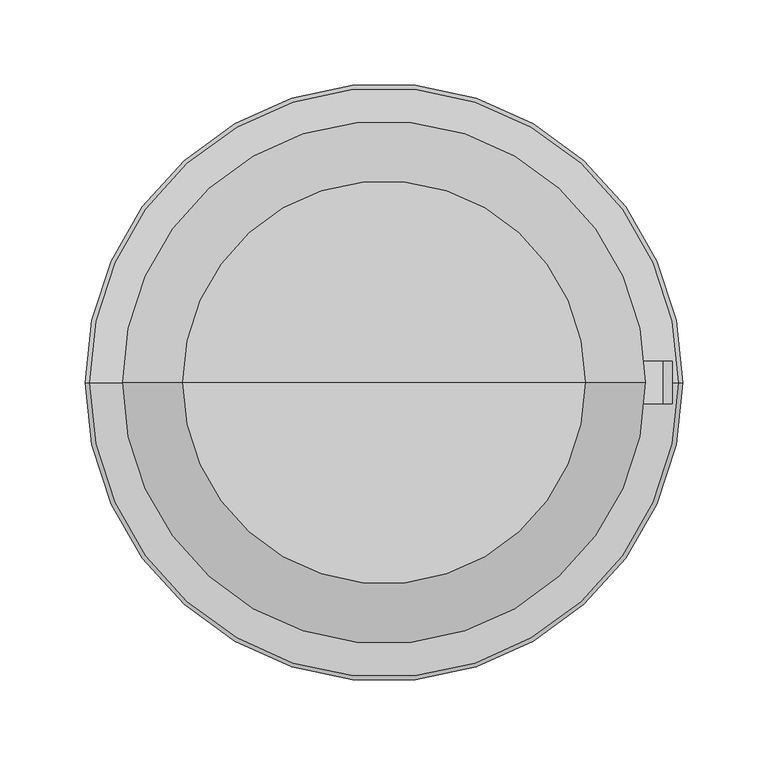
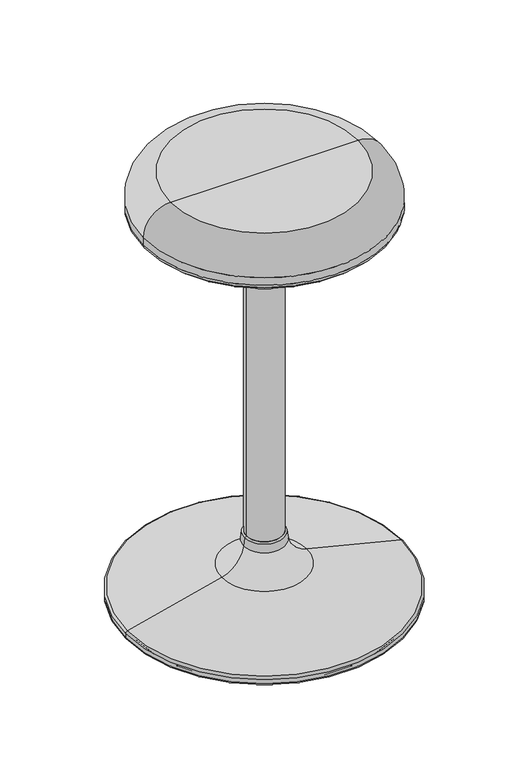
"""IFC4 building model written with IfcOpenShell, lengths in millimetres: furniture geometry, Qyos Stool : Qyos Stool."""

from ifc_helpers import new_model, si_unit, point, frame, frame_2d, origin, origin_2d, place, context, project, spatial, polyline, circle_curve, ellipse_curve, trimmed, segment, composite_curve, outline, extrude, source, transform, mapped, element, save
from ifc_brep_helpers import plane_surface, cylinder_surface, revolved_surface, advanced_brep


def furniture_9c70d94f(model_context):
    return source(origin(), model_context, "Body", "SolidModel", [
        extrude(outline(composite_curve([segment(trimmed(circle_curve(frame_2d((295.8647851, 175.4206629)), 218.1990322), [point((500.3955789, 99.40769))], [point((498.4558227, 94.3793824))], False, "CARTESIAN"), True, "CONTINUOUS"), segment(trimmed(circle_curve(frame_2d((338.2474197, 26.9948353)), 173.8027894), [point((498.4558227, 94.3793824))], [point((486.9308, 116.9985129))], True, "CARTESIAN"), True, "CONTINUOUS"), segment(trimmed(circle_curve(frame_2d((552.2085277, 156.5135922)), 76.3061152), [point((486.9308, 116.9985129))], [point((475.9188176, 158.0957908))], False, "CARTESIAN"), True, "CONTINUOUS"), segment(trimmed(circle_curve(frame_2d((486.9678807, 157.8666405)), 11.0514391), [point((475.9188176, 158.0957908))], [point((496.4220749, 163.5896221))], False, "CARTESIAN"), True, "CONTINUOUS"), segment(trimmed(circle_curve(frame_2d((432.5136352, 124.9034247)), 74.705492), [point((496.4220749, 163.5896221))], [point((507.1035077, 120.7487348))], False, "CARTESIAN"), True, "CONTINUOUS"), segment(trimmed(circle_curve(frame_2d((295.8647851, 175.4206629)), 218.1990322), [point((507.1035077, 120.7487348))], [point((503.3607603, 107.9207523))], False, "CARTESIAN"), True, "CONTINUOUS"), segment(trimmed(circle_curve(frame_2d((615.517591, 114.7100211)), 112.3621326), [point((503.3607603, 107.9207523))], [point((503.3293579, 120.9589567))], False, "CARTESIAN"), True, "CONTINUOUS"), segment(trimmed(circle_curve(frame_2d((432.5136352, 124.9034247)), 70.925492), [point((503.3293579, 120.9589567))], [point((493.1883916, 161.6321512))], True, "CARTESIAN"), True, "CONTINUOUS"), segment(trimmed(circle_curve(frame_2d((486.9678807, 157.8666405)), 7.2714391), [point((493.1883916, 161.6321512))], [point((479.698005, 158.017413))], True, "CARTESIAN"), True, "CONTINUOUS"), segment(trimmed(circle_curve(frame_2d((552.2085277, 156.5135922)), 72.5261152), [point((479.698005, 158.017413))], [point((490.1644833, 118.9559838))], True, "CARTESIAN"), True, "CONTINUOUS"), segment(trimmed(circle_curve(frame_2d((338.2474197, 26.9948353)), 177.5827894), [point((490.1644833, 118.9559838))], [point((500.3955789, 99.40769))], False, "CARTESIAN"), True, "CONTINUOUS")], self_intersect=False)), frame((0.0, -12.5, 0.0), z_axis=(0.0, 1.0, 0.0), x_axis=(0.0, 0.0, 1.0)), (0.0, 0.0, 1.0), 25.0),
        advanced_brep(
        [(0.0, 0.0, 89.0), (22.5, 0.0, 89.0), (-22.5, 0.0, 89.0), (-162.1516528, 0.0, 0.0), (162.1516528, 0.0, 0.0), (0.0, 0.0, 0.0), (-163.0916394, 0.0, 0.9399866), (163.0916394, 0.0, 0.9399866), (-163.0916394, 0.0, 4.0448087), (163.0916394, 0.0, 4.0448087), (-172.3497774, 0.0, 4.0448087), (172.3497774, 0.0, 4.0448087), (-174.9989486, 0.0, 7.0923316), (174.9989486, 0.0, 7.0923316), (-174.9989486, 0.0, 12.4005958), (174.9989486, 0.0, 12.4005958), (-172.8108639, 0.0, 15.3042823), (172.8108639, 0.0, 15.3042823), (-54.0380143, 0.0, 44.9176796), (54.0380143, 0.0, 44.9176796), (-26.3071066, 0.0, 76.8184398), (26.3071066, 0.0, 76.8184398), (-24.8237777, 0.0, 87.3728734), (24.8237777, 0.0, 87.3728734)],
        [
            (0, 1),
            (1, 2, circle_curve(frame((0.0, 0.0, 89.0), z_axis=(0.0, 0.0, 1.0), x_axis=(1.0, 0.0, 0.0)), 22.5)),
            (2, 0),
            (2, 1, circle_curve(frame((0.0, 0.0, 89.0), z_axis=(0.0, 0.0, 1.0), x_axis=(1.0, 0.0, 0.0)), 22.5)),
            (3, 4, circle_curve(frame((0.0, 0.0, 0.0), z_axis=(0.0, 0.0, -1.0), x_axis=(1.0, 0.0, 0.0)), 162.1516528)),
            (4, 5),
            (5, 3),
            (4, 3, circle_curve(frame((0.0, 0.0, 0.0), z_axis=(0.0, 0.0, -1.0), x_axis=(1.0, 0.0, 0.0)), 162.1516528)),
            (6, 7, circle_curve(frame((0.0, 0.0, 0.9399866), z_axis=(0.0, 0.0, -1.0), x_axis=(1.0, 0.0, 0.0)), 163.0916394)),
            (7, 4, circle_curve(frame((162.1516528, 0.0, 0.9399866), z_axis=(0.0, 1.0, 0.0), x_axis=(1.0, 0.0, 0.0)), 0.9399866)),
            (3, 6, circle_curve(frame((-162.1516528, 0.0, 0.9399866), z_axis=(0.0, 1.0, 0.0), x_axis=(-1.0, 0.0, 0.0)), 0.9399866)),
            (7, 6, circle_curve(frame((0.0, 0.0, 0.9399866), z_axis=(0.0, 0.0, -1.0), x_axis=(1.0, 0.0, 0.0)), 163.0916394)),
            (8, 9, circle_curve(frame((0.0, 0.0, 4.0448087), z_axis=(0.0, 0.0, -1.0), x_axis=(1.0, 0.0, 0.0)), 163.0916394)),
            (9, 7),
            (6, 8),
            (9, 8, circle_curve(frame((0.0, 0.0, 4.0448087), z_axis=(0.0, 0.0, -1.0), x_axis=(1.0, 0.0, 0.0)), 163.0916394)),
            (10, 11, circle_curve(frame((0.0, 0.0, 4.0448087), z_axis=(0.0, 0.0, -1.0), x_axis=(1.0, 0.0, 0.0)), 172.3497774)),
            (11, 9),
            (8, 10),
            (11, 10, circle_curve(frame((0.0, 0.0, 4.0448087), z_axis=(0.0, 0.0, -1.0), x_axis=(1.0, 0.0, 0.0)), 172.3497774)),
            (12, 13, circle_curve(frame((0.0, 0.0, 7.0923316), z_axis=(0.0, 0.0, -1.0), x_axis=(1.0, 0.0, 0.0)), 174.9989486)),
            (13, 11, circle_curve(frame((171.921476, 0.0, 7.0923316), z_axis=(0.0, 1.0, 0.0), x_axis=(1.0, 0.0, 0.0)), 3.0774726)),
            (10, 12, circle_curve(frame((-171.921476, 0.0, 7.0923316), z_axis=(0.0, 1.0, 0.0), x_axis=(-1.0, 0.0, 0.0)), 3.0774726)),
            (13, 12, circle_curve(frame((0.0, 0.0, 7.0923316), z_axis=(0.0, 0.0, -1.0), x_axis=(1.0, 0.0, 0.0)), 174.9989486)),
            (14, 15, circle_curve(frame((0.0, 0.0, 12.4005958), z_axis=(0.0, 0.0, -1.0), x_axis=(1.0, 0.0, 0.0)), 174.9989486)),
            (15, 13),
            (12, 14),
            (15, 14, circle_curve(frame((0.0, 0.0, 12.4005958), z_axis=(0.0, 0.0, -1.0), x_axis=(1.0, 0.0, 0.0)), 174.9989486)),
            (16, 17, circle_curve(frame((0.0, 0.0, 15.3042823), z_axis=(0.0, 0.0, -1.0), x_axis=(1.0, 0.0, 0.0)), 172.8108639)),
            (17, 15, circle_curve(frame((172.1120292, 0.0, 12.5014092), z_axis=(0.0, 1.0, 0.0), x_axis=(1.0, 0.0, 0.0)), 2.8886791)),
            (14, 16, circle_curve(frame((-172.1120292, 0.0, 12.5014092), z_axis=(0.0, 1.0, 0.0), x_axis=(-1.0, 0.0, 0.0)), 2.8886791)),
            (17, 16, circle_curve(frame((0.0, 0.0, 15.3042823), z_axis=(0.0, 0.0, -1.0), x_axis=(1.0, 0.0, 0.0)), 172.8108639)),
            (18, 19, circle_curve(frame((0.0, 0.0, 44.9176796), z_axis=(0.0, 0.0, -1.0), x_axis=(1.0, 0.0, 0.0)), 54.0380143)),
            (19, 17),
            (16, 18),
            (19, 18, circle_curve(frame((0.0, 0.0, 44.9176796), z_axis=(0.0, 0.0, -1.0), x_axis=(1.0, 0.0, 0.0)), 54.0380143)),
            (20, 21, circle_curve(frame((0.0, 0.0, 76.8184398), z_axis=(0.0, 0.0, -1.0), x_axis=(1.0, 0.0, 0.0)), 26.3071066)),
            (21, 19, circle_curve(frame((64.7339919, 0.0, 82.2189863), z_axis=(0.0, -1.0, 0.0), x_axis=(1.0, 0.0, 0.0)), 38.8045283)),
            (18, 20, circle_curve(frame((-64.7339919, 0.0, 82.2189863), z_axis=(0.0, -1.0, 0.0), x_axis=(-1.0, 0.0, 0.0)), 38.8045283)),
            (21, 20, circle_curve(frame((0.0, 0.0, 76.8184398), z_axis=(0.0, 0.0, -1.0), x_axis=(1.0, 0.0, 0.0)), 26.3071066)),
            (22, 23, circle_curve(frame((0.0, 0.0, 87.3728734), z_axis=(0.0, 0.0, -1.0), x_axis=(1.0, 0.0, 0.0)), 24.8237777)),
            (23, 21),
            (20, 22),
            (23, 22, circle_curve(frame((0.0, 0.0, 87.3728734), z_axis=(0.0, 0.0, -1.0), x_axis=(1.0, 0.0, 0.0)), 24.8237777)),
            (1, 23, circle_curve(frame((22.5, 0.0, 86.5270875), z_axis=(0.0, 1.0, 0.0), x_axis=(1.0, 0.0, 0.0)), 2.4729125)),
            (22, 2, circle_curve(frame((-22.5, 0.0, 86.5270875), z_axis=(0.0, 1.0, 0.0), x_axis=(-1.0, 0.0, 0.0)), 2.4729125)),
        ],
        [
            plane_surface(frame((0.0, 0.0, 89.0), z_axis=(0.0, 0.0, 1.0), x_axis=(1.0, 0.0, 0.0))),
            plane_surface(frame((0.0, 0.0, 0.0), z_axis=(0.0, 0.0, -1.0), x_axis=(1.0, 0.0, 0.0))),
            revolved_surface(trimmed(ellipse_curve(frame((162.1516528, 0.0, 0.9399866), z_axis=(0.0, -1.0, 0.0), x_axis=(1.0, 0.0, 0.0)), 0.9399866, 0.9399866), [point((162.1516528, 0.0, 0.0))], [point((163.0916394, 0.0, 0.9399866))], True, "CARTESIAN"), (0.0, 0.0, 1997.4144888), (0.0, 0.0, 1.0)),
            cylinder_surface(frame((0.0, 0.0, 1997.4144888), z_axis=(0.0, 0.0, 1.0), x_axis=(1.0, 0.0, 0.0)), 163.0916394),
            plane_surface(frame((0.0, 0.0, 4.0448087), z_axis=(0.0, 0.0, -1.0), x_axis=(1.0, 0.0, 0.0))),
            revolved_surface(trimmed(ellipse_curve(frame((171.921476, 0.0, 7.0923316), z_axis=(0.0, -1.0, 0.0), x_axis=(1.0, 0.0, 0.0)), 3.0774726, 3.0774726), [point((172.3497774, 0.0, 4.0448087))], [point((174.9989486, 0.0, 7.0923316))], True, "CARTESIAN"), (0.0, 0.0, 1997.4144888), (0.0, 0.0, 1.0)),
            cylinder_surface(frame((0.0, 0.0, 1997.4144888), z_axis=(0.0, 0.0, 1.0), x_axis=(1.0, 0.0, 0.0)), 174.9989486),
            revolved_surface(trimmed(ellipse_curve(frame((172.1120292, 0.0, 12.5014092), z_axis=(0.0, -1.0, 0.0), x_axis=(1.0, 0.0, 0.0)), 2.8886791, 2.8886791), [point((174.9989486, 0.0, 12.4005958))], [point((172.8108639, 0.0, 15.3042823))], True, "CARTESIAN"), (0.0, 0.0, 1997.4144888), (0.0, 0.0, 1.0)),
            revolved_surface(polyline([(172.8108639, 0.0, 15.3042823), (54.0380143, 0.0, 44.9176796)]), (0.0, 0.0, 1997.4144888), (0.0, 0.0, 1.0)),
            revolved_surface(trimmed(ellipse_curve(frame((64.7339919, 0.0, 82.2189863), z_axis=(0.0, 1.0, 0.0), x_axis=(1.0, 0.0, 0.0)), 38.8045283, 38.8045283), [point((54.0380143, 0.0, 44.9176796))], [point((26.3071066, 0.0, 76.8184398))], True, "CARTESIAN"), (0.0, 0.0, 1997.4144888), (0.0, 0.0, 1.0)),
            revolved_surface(polyline([(26.3071066, 0.0, 76.8184398), (24.8237777, 0.0, 87.3728734)]), (0.0, 0.0, 1997.4144888), (0.0, 0.0, 1.0)),
            revolved_surface(trimmed(ellipse_curve(frame((22.5, 0.0, 86.5270875), z_axis=(0.0, -1.0, 0.0), x_axis=(1.0, 0.0, 0.0)), 2.4729125, 2.4729125), [point((24.8237777, 0.0, 87.3728734))], [point((22.5, 0.0, 89.0))], True, "CARTESIAN"), (0.0, 0.0, 1997.4144888), (0.0, 0.0, 1.0)),
        ],
        [
            (0, [[1, 2, 3]]),
            (0, [[-3, 4, -1]]),
            (1, [[5, 6, 7]]),
            (1, [[8, -7, -6]]),
            (2, [[9, 10, -5, 11]]),
            (2, [[12, -11, -8, -10]]),
            (3, [[13, 14, -9, 15]]),
            (3, [[16, -15, -12, -14]]),
            (4, [[17, 18, -13, 19]]),
            (4, [[20, -19, -16, -18]]),
            (5, [[21, 22, -17, 23]]),
            (5, [[24, -23, -20, -22]]),
            (6, [[25, 26, -21, 27]]),
            (6, [[28, -27, -24, -26]]),
            (7, [[29, 30, -25, 31]]),
            (7, [[32, -31, -28, -30]]),
            (8, [[33, 34, -29, 35]]),
            (8, [[36, -35, -32, -34]]),
            (9, [[37, 38, -33, 39]]),
            (9, [[40, -39, -36, -38]]),
            (10, [[41, 42, -37, 43]]),
            (10, [[44, -43, -40, -42]]),
            (11, [[-2, 45, -41, 46]]),
            (11, [[-4, -46, -44, -45]]),
        ],
    ),
        advanced_brep(
        [(0.0, 0.0, 567.0), (117.9794661, 0.0, 567.0), (-117.9794661, 0.0, 567.0), (-22.5, 0.0, 440.0), (22.5, 0.0, 440.0), (0.0, 0.0, 440.0), (-48.0924064, 0.0, 473.0605321), (48.0924064, 0.0, 473.0605321), (-143.9224365, 0.0, 511.7783775), (143.9224365, 0.0, 511.7783775), (-147.0318201, 0.0, 514.4813234), (147.0318201, 0.0, 514.4813234), (-145.951661, 0.0, 515.9680348), (145.951661, 0.0, 515.9680348), (-153.0528371, 0.0, 521.926629), (153.0528371, 0.0, 521.926629), (-153.0528371, 0.0, 531.926629), (153.0528371, 0.0, 531.926629)],
        [
            (0, 1),
            (1, 2, circle_curve(frame((0.0, 0.0, 567.0), z_axis=(0.0, 0.0, 1.0), x_axis=(1.0, 0.0, 0.0)), 117.9794661)),
            (2, 0),
            (2, 1, circle_curve(frame((0.0, 0.0, 567.0), z_axis=(0.0, 0.0, 1.0), x_axis=(1.0, 0.0, 0.0)), 117.9794661)),
            (3, 4, circle_curve(frame((0.0, 0.0, 440.0), z_axis=(0.0, 0.0, -1.0), x_axis=(1.0, 0.0, 0.0)), 22.5)),
            (4, 5),
            (5, 3),
            (4, 3, circle_curve(frame((0.0, 0.0, 440.0), z_axis=(0.0, 0.0, -1.0), x_axis=(1.0, 0.0, 0.0)), 22.5)),
            (6, 7, circle_curve(frame((0.0, 0.0, 473.0605321), z_axis=(0.0, 0.0, -1.0), x_axis=(1.0, 0.0, 0.0)), 48.0924064)),
            (7, 4, circle_curve(frame((90.9009785, 0.0, 413.4861916), z_axis=(0.0, -1.0, 0.0), x_axis=(1.0, 0.0, 0.0)), 73.3599066)),
            (3, 6, circle_curve(frame((-90.9009785, 0.0, 413.4861916), z_axis=(0.0, -1.0, 0.0), x_axis=(-1.0, 0.0, 0.0)), 73.3599066)),
            (7, 6, circle_curve(frame((0.0, 0.0, 473.0605321), z_axis=(0.0, 0.0, -1.0), x_axis=(1.0, 0.0, 0.0)), 48.0924064)),
            (8, 9, circle_curve(frame((0.0, 0.0, 511.7783775), z_axis=(0.0, 0.0, -1.0), x_axis=(1.0, 0.0, 0.0)), 143.9224365)),
            (9, 7, circle_curve(frame((175.4206629, 0.0, 295.8647851), z_axis=(0.0, -1.0, 0.0), x_axis=(1.0, 0.0, 0.0)), 218.1990322)),
            (6, 8, circle_curve(frame((-175.4206629, 0.0, 295.8647851), z_axis=(0.0, -1.0, 0.0), x_axis=(-1.0, 0.0, 0.0)), 218.1990322)),
            (9, 8, circle_curve(frame((0.0, 0.0, 511.7783775), z_axis=(0.0, 0.0, -1.0), x_axis=(1.0, 0.0, 0.0)), 143.9224365)),
            (10, 11, circle_curve(frame((0.0, 0.0, 514.4813234), z_axis=(0.0, 0.0, -1.0), x_axis=(1.0, 0.0, 0.0)), 147.0318201)),
            (11, 9, circle_curve(frame((143.3719962, 0.0, 515.5515279), z_axis=(0.0, 1.0, 0.0), x_axis=(1.0, 0.0, 0.0)), 3.813089)),
            (8, 10, circle_curve(frame((-143.3719962, 0.0, 515.5515279), z_axis=(0.0, 1.0, 0.0), x_axis=(-1.0, 0.0, 0.0)), 3.813089)),
            (11, 10, circle_curve(frame((0.0, 0.0, 514.4813234), z_axis=(0.0, 0.0, -1.0), x_axis=(1.0, 0.0, 0.0)), 147.0318201)),
            (12, 13, circle_curve(frame((0.0, 0.0, 515.9680348), z_axis=(0.0, 0.0, -1.0), x_axis=(1.0, 0.0, 0.0)), 145.951661)),
            (13, 11, circle_curve(frame((145.9172091, 0.0, 514.8072576), z_axis=(0.0, 1.0, 0.0), x_axis=(1.0, 0.0, 0.0)), 1.1612884)),
            (10, 12, circle_curve(frame((-145.9172091, 0.0, 514.8072576), z_axis=(0.0, 1.0, 0.0), x_axis=(-1.0, 0.0, 0.0)), 1.1612884)),
            (13, 12, circle_curve(frame((0.0, 0.0, 515.9680348), z_axis=(0.0, 0.0, -1.0), x_axis=(1.0, 0.0, 0.0)), 145.951661)),
            (14, 15, circle_curve(frame((0.0, 0.0, 521.926629), z_axis=(0.0, 0.0, -1.0), x_axis=(1.0, 0.0, 0.0)), 153.0528371)),
            (15, 13, circle_curve(frame((146.7448744, 0.0, 522.233443), z_axis=(0.0, 1.0, 0.0), x_axis=(1.0, 0.0, 0.0)), 6.3154198)),
            (12, 14, circle_curve(frame((-146.7448744, 0.0, 522.233443), z_axis=(0.0, 1.0, 0.0), x_axis=(-1.0, 0.0, 0.0)), 6.3154198)),
            (15, 14, circle_curve(frame((0.0, 0.0, 521.926629), z_axis=(0.0, 0.0, -1.0), x_axis=(1.0, 0.0, 0.0)), 153.0528371)),
            (16, 17, circle_curve(frame((0.0, 0.0, 531.926629), z_axis=(0.0, 0.0, -1.0), x_axis=(1.0, 0.0, 0.0)), 153.0528371)),
            (17, 15),
            (14, 16),
            (17, 16, circle_curve(frame((0.0, 0.0, 531.926629), z_axis=(0.0, 0.0, -1.0), x_axis=(1.0, 0.0, 0.0)), 153.0528371)),
            (1, 17, circle_curve(frame((117.9794661, 0.0, 531.926629), z_axis=(0.0, 1.0, 0.0), x_axis=(1.0, 0.0, 0.0)), 35.073371)),
            (16, 2, circle_curve(frame((-117.9794661, 0.0, 531.926629), z_axis=(0.0, 1.0, 0.0), x_axis=(-1.0, 0.0, 0.0)), 35.073371)),
        ],
        [
            plane_surface(frame((0.0, 0.0, 567.0), z_axis=(0.0, 0.0, 1.0), x_axis=(1.0, 0.0, 0.0))),
            plane_surface(frame((0.0, 0.0, 440.0), z_axis=(0.0, 0.0, -1.0), x_axis=(1.0, 0.0, 0.0))),
            revolved_surface(trimmed(ellipse_curve(frame((90.9009785, 0.0, 413.4861916), z_axis=(0.0, 1.0, 0.0), x_axis=(1.0, 0.0, 0.0)), 73.3599066, 73.3599066), [point((22.5, 0.0, 440.0))], [point((48.0924064, 0.0, 473.0605321))], True, "CARTESIAN"), (0.0, 0.0, 1997.4144888), (0.0, 0.0, 1.0)),
            revolved_surface(trimmed(ellipse_curve(frame((175.4206629, 0.0, 295.8647851), z_axis=(0.0, 1.0, 0.0), x_axis=(1.0, 0.0, 0.0)), 218.1990322, 218.1990322), [point((48.0924064, 0.0, 473.0605321))], [point((143.9224365, 0.0, 511.7783775))], True, "CARTESIAN"), (0.0, 0.0, 1997.4144888), (0.0, 0.0, 1.0)),
            revolved_surface(trimmed(ellipse_curve(frame((143.3719962, 0.0, 515.5515279), z_axis=(0.0, -1.0, 0.0), x_axis=(1.0, 0.0, 0.0)), 3.813089, 3.813089), [point((143.9224365, 0.0, 511.7783775))], [point((147.0318201, 0.0, 514.4813234))], True, "CARTESIAN"), (0.0, 0.0, 1997.4144888), (0.0, 0.0, 1.0)),
            revolved_surface(trimmed(ellipse_curve(frame((145.9172091, 0.0, 514.8072576), z_axis=(0.0, -1.0, 0.0), x_axis=(1.0, 0.0, 0.0)), 1.1612884, 1.1612884), [point((147.0318201, 0.0, 514.4813234))], [point((145.951661, 0.0, 515.9680348))], True, "CARTESIAN"), (0.0, 0.0, 1997.4144888), (0.0, 0.0, 1.0)),
            revolved_surface(trimmed(ellipse_curve(frame((146.7448744, 0.0, 522.233443), z_axis=(0.0, -1.0, 0.0), x_axis=(1.0, 0.0, 0.0)), 6.3154198, 6.3154198), [point((145.951661, 0.0, 515.9680348))], [point((153.0528371, 0.0, 521.926629))], True, "CARTESIAN"), (0.0, 0.0, 1997.4144888), (0.0, 0.0, 1.0)),
            cylinder_surface(frame((0.0, 0.0, 1997.4144888), z_axis=(0.0, 0.0, 1.0), x_axis=(1.0, 0.0, 0.0)), 153.0528371),
            revolved_surface(trimmed(ellipse_curve(frame((117.9794661, 0.0, 531.926629), z_axis=(0.0, -1.0, 0.0), x_axis=(1.0, 0.0, 0.0)), 35.073371, 35.073371), [point((153.0528371, 0.0, 531.926629))], [point((117.9794661, 0.0, 567.0))], True, "CARTESIAN"), (0.0, 0.0, 1997.4144888), (0.0, 0.0, 1.0)),
        ],
        [
            (0, [[1, 2, 3]]),
            (0, [[-3, 4, -1]]),
            (1, [[5, 6, 7]]),
            (1, [[8, -7, -6]]),
            (2, [[9, 10, -5, 11]]),
            (2, [[12, -11, -8, -10]]),
            (3, [[13, 14, -9, 15]]),
            (3, [[16, -15, -12, -14]]),
            (4, [[17, 18, -13, 19]]),
            (4, [[20, -19, -16, -18]]),
            (5, [[21, 22, -17, 23]]),
            (5, [[24, -23, -20, -22]]),
            (6, [[25, 26, -21, 27]]),
            (6, [[28, -27, -24, -26]]),
            (7, [[29, 30, -25, 31]]),
            (7, [[32, -31, -28, -30]]),
            (8, [[-2, 33, -29, 34]]),
            (8, [[-4, -34, -32, -33]]),
        ],
    ),
        extrude(outline(composite_curve([segment(trimmed(circle_curve(origin_2d(), 22.5), [point((-22.5, 0.0))], [point((22.5, 0.0))], False, "CARTESIAN"), True, "CONTINUOUS"), segment(trimmed(circle_curve(origin_2d(), 22.5), [point((22.5, 0.0))], [point((-22.5, 0.0))], False, "CARTESIAN"), True, "CONTINUOUS")], self_intersect=False)), frame((0.0, 0.0, 89.0), z_axis=(0.0, 0.0, 1.0), x_axis=(1.0, 0.0, 0.0)), (0.0, 0.0, 1.0), 350.9680348),
    ])


if __name__ == "__main__":
    model = new_model("IFC4")
    model_context = context("Model", 3, world=origin())
    ifc_project = project(units=[si_unit("LENGTHUNIT", "METRE", prefix="MILLI")], contexts=[model_context])
    site = spatial("IfcSite", under=ifc_project)
    building = spatial("IfcBuilding", under=site)
    placement = place(None, origin())
    furniture_shape = furniture_9c70d94f(model_context)
    element("IfcFurniture", 1, ObjectType="Qyos Stool : Qyos Stool", at=placement, inside=building, context=model_context, shape_type="MappedRepresentation", body=[
        mapped(furniture_shape, transform((0.0, 0.0, 0.0), x_axis=(1.0, 0.0, 0.0), y_axis=(0.0, 1.0, 0.0), z_axis=(0.0, 0.0, 1.0))),
    ])
    save(model, "model.ifc")
